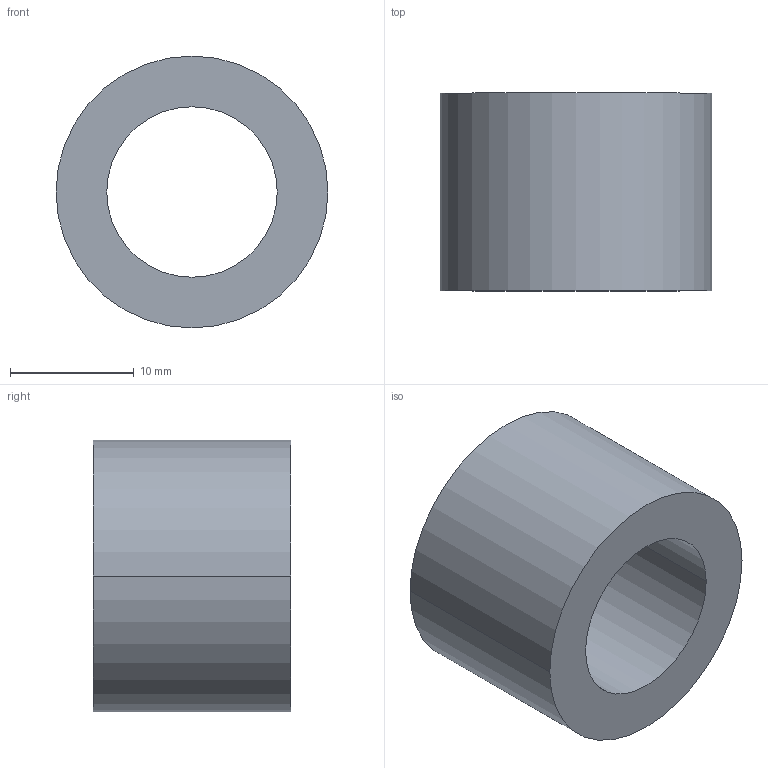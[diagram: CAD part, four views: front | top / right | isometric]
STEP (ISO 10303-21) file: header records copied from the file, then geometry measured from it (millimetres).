
FILE_DESCRIPTION (( 'STEP AP203' ), '1' );
FILE_NAME ('30800.WPP22F13.8.step', '2019-01-23T22:42:21', ( '' ), ( '' ), 'SwSTEP 2.0', 'SolidWorks 2017', '' );
FILE_SCHEMA (( 'CONFIG_CONTROL_DESIGN' ));
Length unit declared in the file: millimetre
Products named in the file (1): 30800.WPP22F13.8
Bounding box: 22 x 16 x 22 mm (x, y, z)
Volume: 3649.4 mm3; surface area: 2225.2 mm2
Topology: 1 solids, 1 shells, 8 faces, 16 edges, 10 vertices
Faces by surface type: cylinder 4, torus 2, plane 2
Entity records: 297 total; most frequent: DIRECTION 46, CARTESIAN_POINT 35, ORIENTED_EDGE 32, AXIS2_PLACEMENT_3D 21, EDGE_CURVE 16, CIRCLE 12, EDGE_LOOP 10, VERTEX_POINT 10
